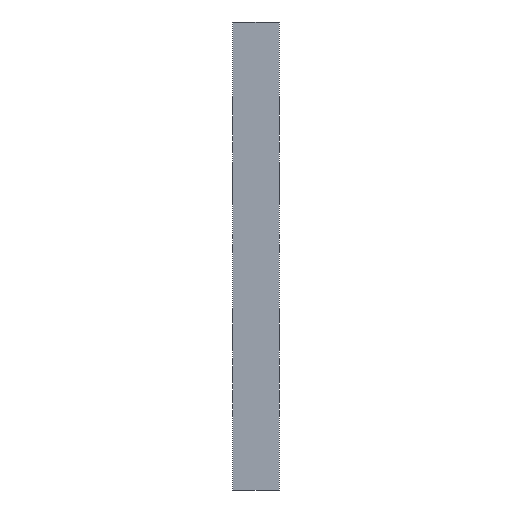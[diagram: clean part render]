
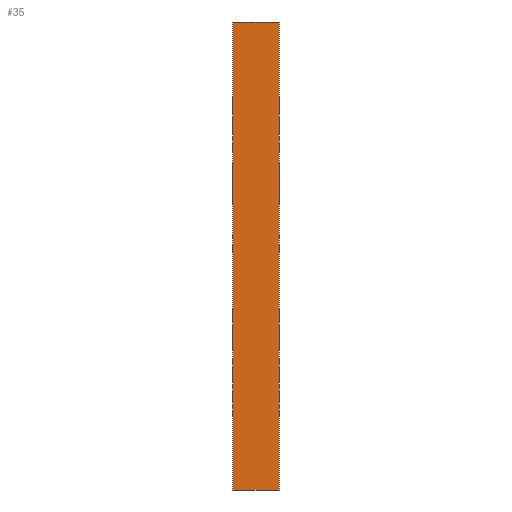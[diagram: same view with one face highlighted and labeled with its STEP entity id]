
A CAD part, left-side view. The second image highlights one B-rep face of the part: STEP entity #35.
In plain terms, the highlighted planar face has unit normal (-1, 0, 0).
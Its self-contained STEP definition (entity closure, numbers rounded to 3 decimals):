
#35 = ADVANCED_FACE('',(#36),#50,.F.);
#36 = FACE_BOUND('',#37,.F.);
#37 = EDGE_LOOP('',(#38,#73,#101,#129));
#38 = ORIENTED_EDGE('',*,*,#39,.F.);
#39 = EDGE_CURVE('',#40,#42,#44,.T.);
#40 = VERTEX_POINT('',#41);
#41 = CARTESIAN_POINT('',(-8.5,-14.,-38.));
#42 = VERTEX_POINT('',#43);
#43 = CARTESIAN_POINT('',(-8.5,-14.,-22.));
#44 = SURFACE_CURVE('',#45,(#49,#61),.PCURVE_S1.);
#45 = LINE('',#46,#47);
#46 = CARTESIAN_POINT('',(-8.5,-14.,-38.));
#47 = VECTOR('',#48,1.);
#48 = DIRECTION('',(0.,0.,1.));
#49 = PCURVE('',#50,#55);
#50 = PLANE('',#51);
#51 = AXIS2_PLACEMENT_3D('',#52,#53,#54);
#52 = CARTESIAN_POINT('',(-8.5,-14.,-38.));
#53 = DIRECTION('',(1.,0.,0.));
#54 = DIRECTION('',(0.,0.,1.));
#55 = DEFINITIONAL_REPRESENTATION('',(#56),#60);
#56 = LINE('',#57,#58);
#57 = CARTESIAN_POINT('',(0.,0.));
#58 = VECTOR('',#59,1.);
#59 = DIRECTION('',(1.,0.));
#60 = ( GEOMETRIC_REPRESENTATION_CONTEXT(2) 
PARAMETRIC_REPRESENTATION_CONTEXT() REPRESENTATION_CONTEXT('2D SPACE',''
  ) );
#61 = PCURVE('',#62,#67);
#62 = PLANE('',#63);
#63 = AXIS2_PLACEMENT_3D('',#64,#65,#66);
#64 = CARTESIAN_POINT('',(-8.5,-14.,-38.));
#65 = DIRECTION('',(0.,1.,0.));
#66 = DIRECTION('',(0.,0.,1.));
#67 = DEFINITIONAL_REPRESENTATION('',(#68),#72);
#68 = LINE('',#69,#70);
#69 = CARTESIAN_POINT('',(0.,0.));
#70 = VECTOR('',#71,1.);
#71 = DIRECTION('',(1.,0.));
#72 = ( GEOMETRIC_REPRESENTATION_CONTEXT(2) 
PARAMETRIC_REPRESENTATION_CONTEXT() REPRESENTATION_CONTEXT('2D SPACE',''
  ) );
#73 = ORIENTED_EDGE('',*,*,#74,.T.);
#74 = EDGE_CURVE('',#40,#75,#77,.T.);
#75 = VERTEX_POINT('',#76);
#76 = CARTESIAN_POINT('',(-8.5,-12.4,-38.));
#77 = SURFACE_CURVE('',#78,(#82,#89),.PCURVE_S1.);
#78 = LINE('',#79,#80);
#79 = CARTESIAN_POINT('',(-8.5,-14.,-38.));
#80 = VECTOR('',#81,1.);
#81 = DIRECTION('',(0.,1.,0.));
#82 = PCURVE('',#50,#83);
#83 = DEFINITIONAL_REPRESENTATION('',(#84),#88);
#84 = LINE('',#85,#86);
#85 = CARTESIAN_POINT('',(0.,0.));
#86 = VECTOR('',#87,1.);
#87 = DIRECTION('',(0.,-1.));
#88 = ( GEOMETRIC_REPRESENTATION_CONTEXT(2) 
PARAMETRIC_REPRESENTATION_CONTEXT() REPRESENTATION_CONTEXT('2D SPACE',''
  ) );
#89 = PCURVE('',#90,#95);
#90 = PLANE('',#91);
#91 = AXIS2_PLACEMENT_3D('',#92,#93,#94);
#92 = CARTESIAN_POINT('',(-8.5,-14.,-38.));
#93 = DIRECTION('',(0.,0.,1.));
#94 = DIRECTION('',(1.,0.,0.));
#95 = DEFINITIONAL_REPRESENTATION('',(#96),#100);
#96 = LINE('',#97,#98);
#97 = CARTESIAN_POINT('',(0.,0.));
#98 = VECTOR('',#99,1.);
#99 = DIRECTION('',(0.,1.));
#100 = ( GEOMETRIC_REPRESENTATION_CONTEXT(2) 
PARAMETRIC_REPRESENTATION_CONTEXT() REPRESENTATION_CONTEXT('2D SPACE',''
  ) );
#101 = ORIENTED_EDGE('',*,*,#102,.T.);
#102 = EDGE_CURVE('',#75,#103,#105,.T.);
#103 = VERTEX_POINT('',#104);
#104 = CARTESIAN_POINT('',(-8.5,-12.4,-22.));
#105 = SURFACE_CURVE('',#106,(#110,#117),.PCURVE_S1.);
#106 = LINE('',#107,#108);
#107 = CARTESIAN_POINT('',(-8.5,-12.4,-38.));
#108 = VECTOR('',#109,1.);
#109 = DIRECTION('',(0.,0.,1.));
#110 = PCURVE('',#50,#111);
#111 = DEFINITIONAL_REPRESENTATION('',(#112),#116);
#112 = LINE('',#113,#114);
#113 = CARTESIAN_POINT('',(0.,-1.6));
#114 = VECTOR('',#115,1.);
#115 = DIRECTION('',(1.,0.));
#116 = ( GEOMETRIC_REPRESENTATION_CONTEXT(2) 
PARAMETRIC_REPRESENTATION_CONTEXT() REPRESENTATION_CONTEXT('2D SPACE',''
  ) );
#117 = PCURVE('',#118,#123);
#118 = PLANE('',#119);
#119 = AXIS2_PLACEMENT_3D('',#120,#121,#122);
#120 = CARTESIAN_POINT('',(-8.5,-12.4,-38.));
#121 = DIRECTION('',(0.,1.,0.));
#122 = DIRECTION('',(0.,0.,1.));
#123 = DEFINITIONAL_REPRESENTATION('',(#124),#128);
#124 = LINE('',#125,#126);
#125 = CARTESIAN_POINT('',(0.,0.));
#126 = VECTOR('',#127,1.);
#127 = DIRECTION('',(1.,0.));
#128 = ( GEOMETRIC_REPRESENTATION_CONTEXT(2) 
PARAMETRIC_REPRESENTATION_CONTEXT() REPRESENTATION_CONTEXT('2D SPACE',''
  ) );
#129 = ORIENTED_EDGE('',*,*,#130,.F.);
#130 = EDGE_CURVE('',#42,#103,#131,.T.);
#131 = SURFACE_CURVE('',#132,(#136,#143),.PCURVE_S1.);
#132 = LINE('',#133,#134);
#133 = CARTESIAN_POINT('',(-8.5,-14.,-22.));
#134 = VECTOR('',#135,1.);
#135 = DIRECTION('',(0.,1.,0.));
#136 = PCURVE('',#50,#137);
#137 = DEFINITIONAL_REPRESENTATION('',(#138),#142);
#138 = LINE('',#139,#140);
#139 = CARTESIAN_POINT('',(16.,0.));
#140 = VECTOR('',#141,1.);
#141 = DIRECTION('',(0.,-1.));
#142 = ( GEOMETRIC_REPRESENTATION_CONTEXT(2) 
PARAMETRIC_REPRESENTATION_CONTEXT() REPRESENTATION_CONTEXT('2D SPACE',''
  ) );
#143 = PCURVE('',#144,#149);
#144 = PLANE('',#145);
#145 = AXIS2_PLACEMENT_3D('',#146,#147,#148);
#146 = CARTESIAN_POINT('',(-8.5,-14.,-22.));
#147 = DIRECTION('',(0.,0.,1.));
#148 = DIRECTION('',(1.,0.,0.));
#149 = DEFINITIONAL_REPRESENTATION('',(#150),#154);
#150 = LINE('',#151,#152);
#151 = CARTESIAN_POINT('',(0.,0.));
#152 = VECTOR('',#153,1.);
#153 = DIRECTION('',(0.,1.));
#154 = ( GEOMETRIC_REPRESENTATION_CONTEXT(2) 
PARAMETRIC_REPRESENTATION_CONTEXT() REPRESENTATION_CONTEXT('2D SPACE',''
  ) );
